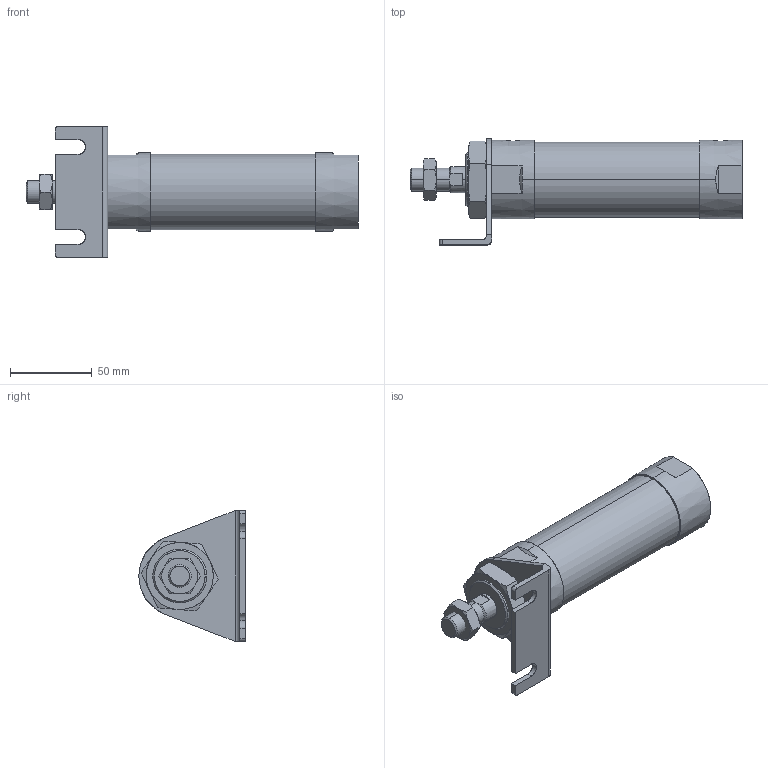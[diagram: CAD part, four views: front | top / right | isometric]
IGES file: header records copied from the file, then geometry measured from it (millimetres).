
Start section: SolidWorks IGES file using analytic representation for surfaces
Global section: file name: C:\Users\Toshiba\Desktop\JGND2-40-50-L.IGS; native system: SolidWorks 2014; preprocessor: SolidWorks 2014; author: Toshiba; date: 160804.110539; units: millimetre
Bounding box: 203 x 65 x 80 mm (x, y, z)
Surface area: 47155.7 mm2 (no closed solid volume)
Topology: 0 solids, 0 shells, 116 faces, 2112 edges, 2108 vertices
Faces by surface type: bspline 71, revolution 45
